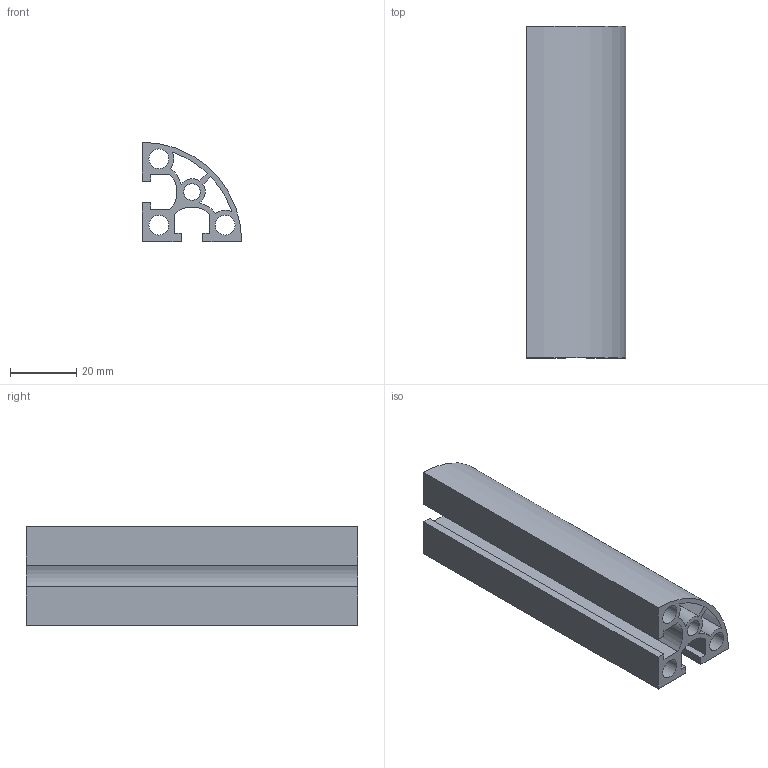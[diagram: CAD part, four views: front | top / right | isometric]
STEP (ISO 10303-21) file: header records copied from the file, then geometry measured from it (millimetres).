
FILE_DESCRIPTION(/* description */ ('Unknown'),/* implementation_level */ '2;1');
FILE_NAME(/* name */ 'NM3030R',/* time_stamp */ '2026-08-31T11:15:30+08:00',/* author */ ('Unknown'),/* organization */ ('Unknown'),/* preprocessor_version */ 'ST-DEVELOPER v16.7',/* originating_system */ 'DEX',/* authorisation */ $);
FILE_SCHEMA (('AUTOMOTIVE_DESIGN {1 0 10303 214 3 1 1}'));
Length unit declared in the file: millimetre
Products named in the file (1): 3030R-
Bounding box: 30 x 100 x 30 mm (x, y, z)
Volume: 30696.8 mm3; surface area: 30366.3 mm2
Topology: 1 solids, 1 shells, 35 faces, 103 edges, 70 vertices
Faces by surface type: plane 20, cylinder 15
Full cylindrical faces by diameter (mm): 5 x1, 6 x3
Entity records: 1177 total; most frequent: DIRECTION 197, CARTESIAN_POINT 197, ORIENTED_EDGE 190, EDGE_CURVE 95, VERTEX_POINT 66, AXIS2_PLACEMENT_3D 66, LINE 65, VECTOR 65
